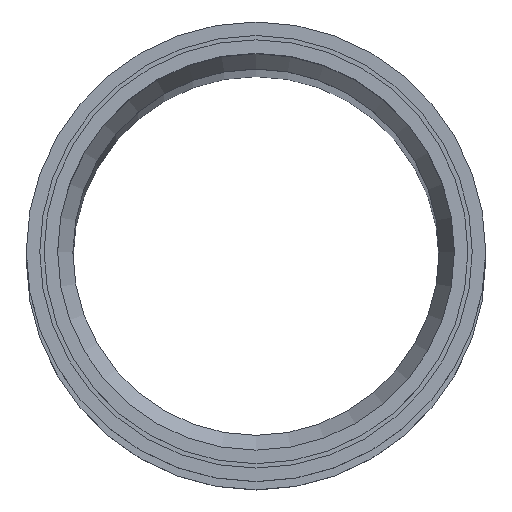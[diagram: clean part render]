
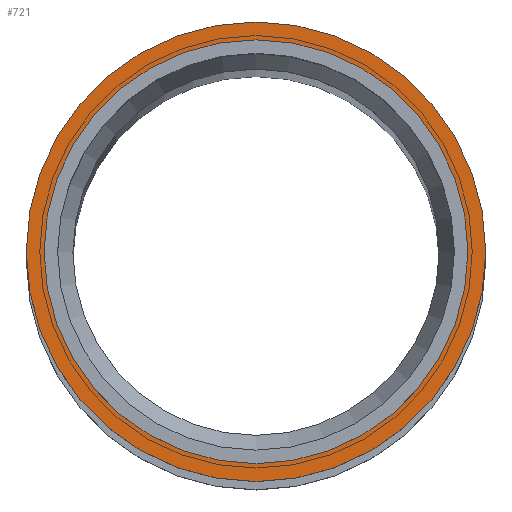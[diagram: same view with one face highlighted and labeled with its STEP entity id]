
A CAD part, top view. The second image highlights one B-rep face of the part: STEP entity #721.
In plain terms, the highlighted planar face has unit normal (0, 0, 1) as drawn and (1, 0, 0) by its records, which use the part's own axes.
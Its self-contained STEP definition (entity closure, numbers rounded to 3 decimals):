
#104=PLANE($,#801);
#131=FACE_BOUND($,#239,.T.);
#132=FACE_BOUND($,#240,.T.);
#239=EDGE_LOOP($,(#605));
#240=EDGE_LOOP($,(#606));
#288=CIRCLE($,#800,52.7);
#289=CIRCLE($,#802,48.6);
#358=VERTEX_POINT($,#1929);
#359=VERTEX_POINT($,#1932);
#444=EDGE_CURVE($,#358,#358,#288,.T.);
#445=EDGE_CURVE($,#359,#359,#289,.T.);
#605=ORIENTED_EDGE($,*,*,#445,.F.);
#606=ORIENTED_EDGE($,*,*,#444,.T.);
#721=ADVANCED_FACE($,(#131,#132),#104,.T.);
#800=AXIS2_PLACEMENT_3D($,#1930,#954,#955);
#801=AXIS2_PLACEMENT_3D($,#1931,#956,#957);
#802=AXIS2_PLACEMENT_3D($,#1933,#958,#959);
#954=DIRECTION('center_axis',(1.,0.,0.));
#955=DIRECTION('ref_axis',(0.,1.,0.));
#956=DIRECTION('center_axis',(1.,0.,0.));
#957=DIRECTION('ref_axis',(0.,0.,-1.));
#958=DIRECTION('center_axis',(1.,0.,0.));
#959=DIRECTION('ref_axis',(0.,1.,0.));
#1929=CARTESIAN_POINT('',(69.,52.7,0.));
#1930=CARTESIAN_POINT('Origin',(69.,0.,0.));
#1931=CARTESIAN_POINT('Origin',(69.,50.65,0.));
#1932=CARTESIAN_POINT('',(69.,48.6,0.));
#1933=CARTESIAN_POINT('Origin',(69.,0.,0.));
